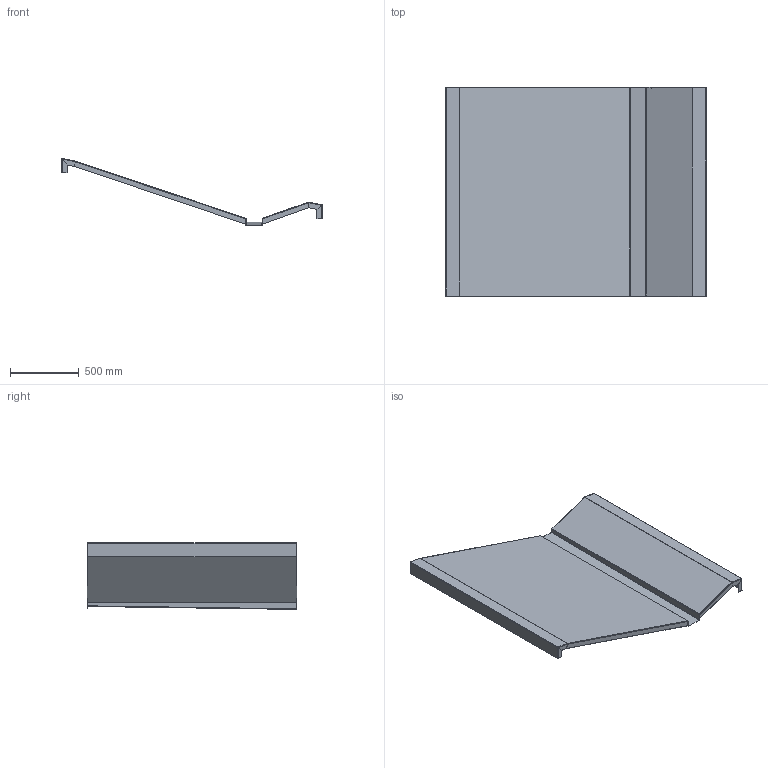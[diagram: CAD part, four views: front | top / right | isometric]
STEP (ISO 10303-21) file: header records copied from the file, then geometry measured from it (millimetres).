
FILE_DESCRIPTION((''),'2;1');
FILE_NAME('F:\IV-Temp\Arbeitsbereich\Wanne18-6.stp','2008-11-06T07:03:39',('andreas'),(''),'Autodesk Inventor 2009','Autodesk Inventor 2009','');
FILE_SCHEMA(('AUTOMOTIVE_DESIGN { 1 0 10303 214 1 1 1 1 }'));
Length unit declared in the file: millimetre
Products named in the file (1): Wanne18-6_Blechkoerper_Laschenrand
Bounding box: 1900.2 x 1525.03 x 486.81 mm (x, y, z)
Volume: 7189494.7 mm3; surface area: 7206327.9 mm2
Topology: 1 solids, 1 shells, 168 faces, 390 edges, 224 vertices
Faces by surface type: plane 100, cylinder 47, bspline 21
Entity records: 5816 total; most frequent: CARTESIAN_POINT 2272, ORIENTED_EDGE 780, DIRECTION 629, EDGE_CURVE 390, VECTOR 229, LINE 229, VERTEX_POINT 224, AXIS2_PLACEMENT_3D 200
